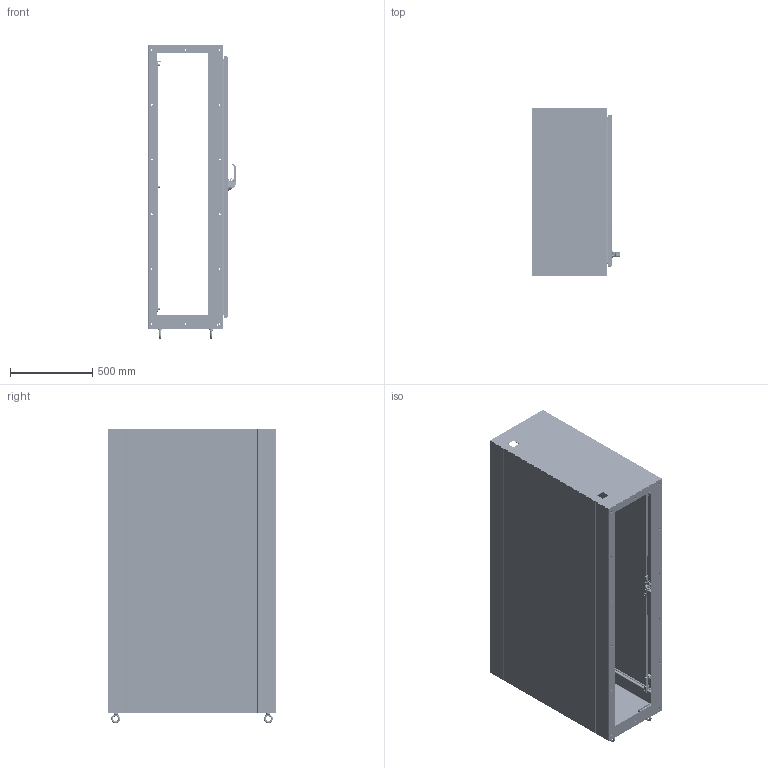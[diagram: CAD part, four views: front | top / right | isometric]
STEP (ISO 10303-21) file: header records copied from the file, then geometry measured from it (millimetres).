
FILE_DESCRIPTION((''),'2;1');
FILE_NAME('MODEL-459_ASM','2023-09-18T09:44:29',('johnh'),('SAGINAW CONTROL & ENGINEERING'),'CREO PARAMETRIC BY PTC INC, 2021284','CREO PARAMETRIC BY PTC INC, 2021284','');
FILE_SCHEMA(('AUTOMOTIVE_DESIGN { 1 0 10303 214 1 1 1 1 }'));
Length unit declared in the file: inch
Products named in the file (76): MODEL-459-L-SD; MODEL-459-TP; MODEL-459-R-SD; MODEL-459-BTM; MODEL-459-DR; 100837; 100957_HANDLE; 100957_HANDLE_INSERT; 100957_SHAFT_CAM; 100957_ADAPTER_CAM; 100957_NUT_CAM; 100957_BASE; 100957_O-RING; 100957_WASHER_SEALING; 100957_NUT_MOUNTING_LARGE; 100957_NUT_MOUNTING_SMALL; 100957_SCREW_SMALL; 100957_PADLOCK_CATCH; 100957_STOP_CAM; 100957_ASM; 102237; 100030; 102237_ASM; MODEL-459-ROD-UPR; 128146; 128145; 128144; 102482; MODEL-459-ROD-UPR_ASM; 128143; 100882; 112504; MODEL-459-ROD-LWR; MODEL-459-ROD-LWR_ASM; MODEL-459-PR-GSKT; 128257; 128257_ASM; 126393; 102483; 101369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
Assembly tree (145 placements, depth 4):
  MODEL-459_ASM
    MODEL-459-L-SD
    MODEL-459-TP
    MODEL-459-R-SD
    MODEL-459-BTM
    MODEL-459-DOOR-ASSY_ASM
      MODEL-459-DR
      100837  x3
      100957_ASM
        100957_HANDLE
        100957_HANDLE_INSERT
        100957_SHAFT_CAM
        100957_ADAPTER_CAM
        100957_NUT_CAM
        100957_BASE
        100957_O-RING
        100957_WASHER_SEALING
        100957_NUT_MOUNTING_LARGE
        100957_NUT_MOUNTING_SMALL
        100957_SCREW_SMALL
        100957_PADLOCK_CATCH
        100957_STOP_CAM
      102237_ASM
        102237
        100030  x2
      MODEL-459-ROD-UPR_ASM
        MODEL-459-ROD-UPR
        128146
        128145
        128144
        102482  x2
      128143  x2
      100882  x10
      112504  x2
      MODEL-459-ROD-LWR_ASM
        MODEL-459-ROD-LWR
        128146
        128145
        128144
        102482  x2
      MODEL-459-PR-GSKT
      128257_ASM  x4
        128257
      126393  x4
      102483  x4
      101369_ASM  x4
        101369
        101369-STUD
      101221  x4
    MODEL-459-BCK
    100837  x7
    101653  x8
    102238  x2
    121454
    MODEL-459-BB  x3
    130513  x4
    103286_ASM  x4
      100813
      108595
      114504
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Bounding box: 534.57 x 1022.35 x 1788.36 mm (x, y, z)
Volume: 20664674.9 mm3; surface area: 14854231.3 mm2
Topology: 151 solids, 151 shells, 14321 faces, 36422 edges, 22572 vertices
Faces by surface type: plane 4797, cylinder 4261, bspline 2778, torus 1157, cone 635, sphere 428, extrusion 265
Entity records: 448024 total; most frequent: CARTESIAN_POINT 201983, ORIENTED_EDGE 37672, DIRECTION 35911, PRESENTATION_STYLE_ASSIGNMENT 19012, STYLED_ITEM 18872, EDGE_CURVE 18836, CURVE_STYLE 18788, AXIS2_PLACEMENT_3D 13537
